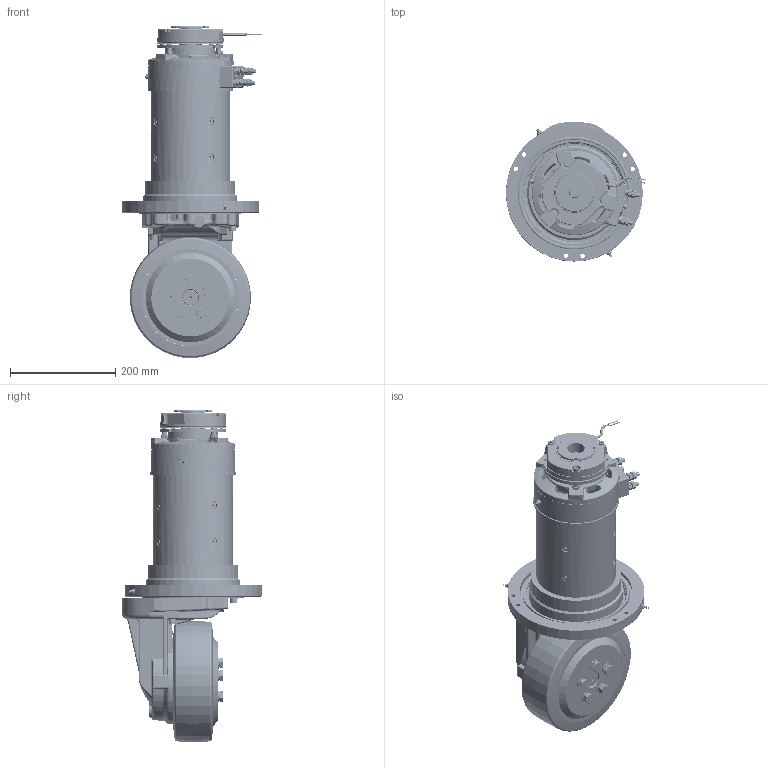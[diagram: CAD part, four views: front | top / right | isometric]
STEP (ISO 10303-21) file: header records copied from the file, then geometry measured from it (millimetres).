
FILE_DESCRIPTION(/* description */ (''),/* implementation_level */ '2;1');
FILE_NAME(/* name */ 'C:\Users\marco bosi\Desktop\SITO 2023\Verticali NON sterzanti\WR151ECO\WR151ECOFM-DC.stp',/* time_stamp */ '2023-05-12T17:12:35+02:00',/* author */ ('marco bosi'),/* organization */ (''),/* preprocessor_version */ 'ST-DEVELOPER v18.1',/* originating_system */ 'Autodesk Inventor 2022',/* authorisation */ '');
FILE_SCHEMA (('AUTOMOTIVE_DESIGN { 1 0 10303 214 3 1 1 }'));
Products named in the file (1): WR151ECOFM-DC_Semplifica_1
Bounding box: 266.3 x 264.1 x 629.92 mm (x, y, z)
Volume: 6567902 mm3; surface area: 1381513.7 mm2
Topology: 14 solids, 14 shells, 5574 faces, 14501 edges, 9025 vertices
Faces by surface type: plane 2835, cylinder 1285, bspline 682, cone 415, torus 294, sphere 63
Full cylindrical faces by diameter (mm): 1.88 x2, 1.914 x2, 2 x6, 2.5 x1, 2.523 x2, 3.457 x2, 4 x4, 4.25 x2, 4.48 x11, 5 x12, 5.3 x3, 5.35 x3, 5.5 x8, 6 x9, 6.647 x4, 7.5 x5, 7.8 x12, 8 x31, 8.376 x11, 8.4 x4, 8.5 x24, 9 x1, 9.376 x1, 9.5 x2, 9.64 x2, 10 x12, 10.25 x3, 10.5 x6, 11 x8, 11.7 x1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
Entity records: 260398 total; most frequent: CARTESIAN_POINT 121625, ORIENTED_EDGE 28884, DIRECTION 26908, EDGE_CURVE 14442, AXIS2_PLACEMENT_3D 9997, VERTEX_POINT 9049, LINE 6914, VECTOR 6914
